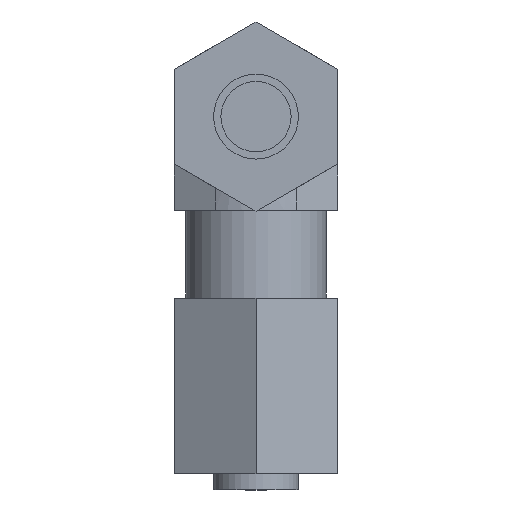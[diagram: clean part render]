
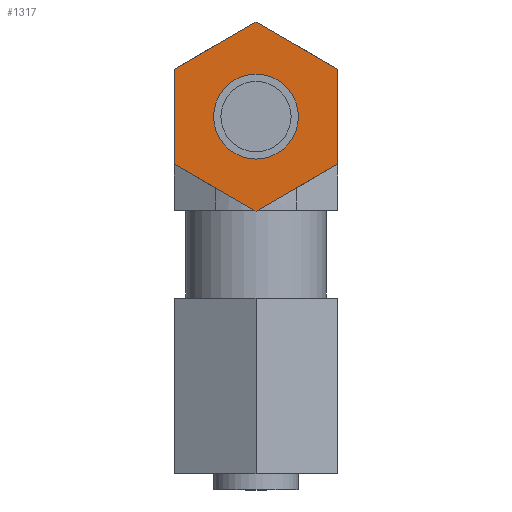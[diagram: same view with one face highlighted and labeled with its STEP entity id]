
A CAD part, front view. The second image highlights one B-rep face of the part: STEP entity #1317.
In plain terms, the highlighted planar face has unit normal (0, 1, 0).
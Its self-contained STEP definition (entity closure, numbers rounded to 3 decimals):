
#21=FACE_BOUND('',#174,.T.);
#29=PLANE('',#1503);
#120=FACE_OUTER_BOUND('',#173,.T.);
#173=EDGE_LOOP('',(#1096,#1097,#1098,#1099,#1100,#1101));
#174=EDGE_LOOP('',(#1102));
#240=CIRCLE('',#1504,3.625);
#296=LINE('',#2055,#462);
#297=LINE('',#2057,#463);
#298=LINE('',#2059,#464);
#299=LINE('',#2061,#465);
#300=LINE('',#2063,#466);
#301=LINE('',#2064,#467);
#462=VECTOR('',#1658,8.083);
#463=VECTOR('',#1659,8.083);
#464=VECTOR('',#1660,8.083);
#465=VECTOR('',#1661,8.083);
#466=VECTOR('',#1662,8.083);
#467=VECTOR('',#1663,8.083);
#644=VERTEX_POINT('',#2053);
#645=VERTEX_POINT('',#2054);
#646=VERTEX_POINT('',#2056);
#647=VERTEX_POINT('',#2058);
#648=VERTEX_POINT('',#2060);
#649=VERTEX_POINT('',#2062);
#650=VERTEX_POINT('',#2065);
#870=EDGE_CURVE('',#644,#645,#296,.T.);
#871=EDGE_CURVE('',#645,#646,#297,.T.);
#872=EDGE_CURVE('',#646,#647,#298,.T.);
#873=EDGE_CURVE('',#647,#648,#299,.T.);
#874=EDGE_CURVE('',#648,#649,#300,.T.);
#875=EDGE_CURVE('',#649,#644,#301,.T.);
#876=EDGE_CURVE('',#650,#650,#240,.T.);
#1096=ORIENTED_EDGE('',*,*,#870,.T.);
#1097=ORIENTED_EDGE('',*,*,#871,.T.);
#1098=ORIENTED_EDGE('',*,*,#872,.T.);
#1099=ORIENTED_EDGE('',*,*,#873,.T.);
#1100=ORIENTED_EDGE('',*,*,#874,.T.);
#1101=ORIENTED_EDGE('',*,*,#875,.T.);
#1102=ORIENTED_EDGE('',*,*,#876,.T.);
#1317=ADVANCED_FACE('',(#120,#21),#29,.T.);
#1503=AXIS2_PLACEMENT_3D('',#2052,#1656,#1657);
#1504=AXIS2_PLACEMENT_3D('',#2066,#1664,#1665);
#1656=DIRECTION('center_axis',(0.,1.,0.));
#1657=DIRECTION('ref_axis',(0.,0.,1.));
#1658=DIRECTION('',(0.,0.,1.));
#1659=DIRECTION('',(0.866,0.,0.5));
#1660=DIRECTION('',(0.866,0.,-0.5));
#1661=DIRECTION('',(0.,0.,-1.));
#1662=DIRECTION('',(-0.866,0.,-0.5));
#1663=DIRECTION('',(-0.866,0.,0.5));
#1664=DIRECTION('center_axis',(0.,-1.,0.));
#1665=DIRECTION('ref_axis',(0.,0.,
-1.));
#2052=CARTESIAN_POINT('Origin',(-7.,-30.5,20.));
#2053=CARTESIAN_POINT('',(-7.,-30.5,15.959));
#2054=CARTESIAN_POINT('',(-7.,-30.5,24.041));
#2055=CARTESIAN_POINT('',(-7.,-30.5,15.959));
#2056=CARTESIAN_POINT('',(0.,-30.5,28.083));
#2057=CARTESIAN_POINT('',(-7.,-30.5,24.041));
#2058=CARTESIAN_POINT('',(7.,-30.5,24.041));
#2059=CARTESIAN_POINT('',(0.,-30.5,28.083));
#2060=CARTESIAN_POINT('',(7.,-30.5,15.959));
#2061=CARTESIAN_POINT('',(7.,-30.5,24.041));
#2062=CARTESIAN_POINT('',(0.,-30.5,11.917));
#2063=CARTESIAN_POINT('',(7.,-30.5,15.959));
#2064=CARTESIAN_POINT('',(0.,-30.5,11.917));
#2065=CARTESIAN_POINT('',(0.,-30.5,23.625));
#2066=CARTESIAN_POINT('Origin',(0.,-30.5,20.));
